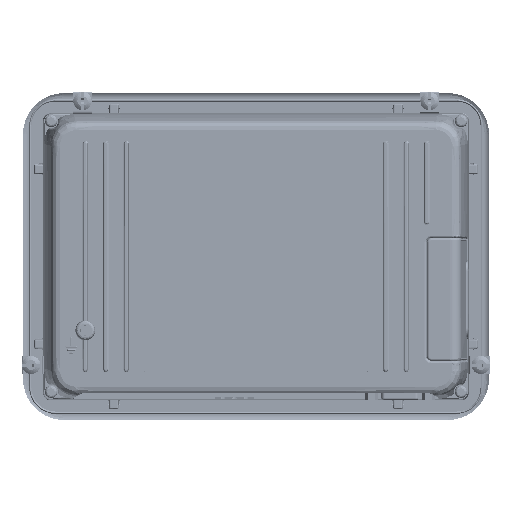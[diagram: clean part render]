
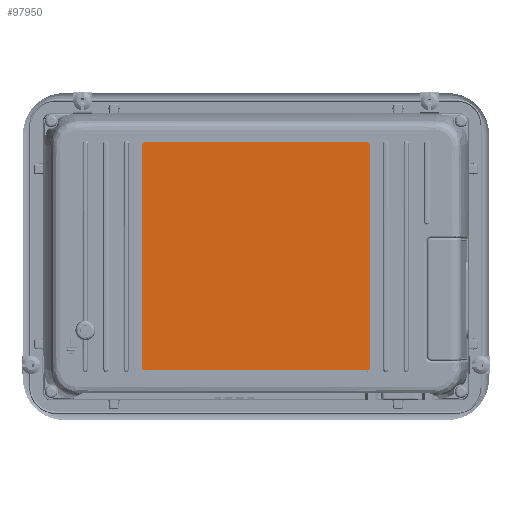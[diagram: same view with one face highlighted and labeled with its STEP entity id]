
A CAD part, top view. The second image highlights one B-rep face of the part: STEP entity #97950.
In plain terms, the highlighted planar face has unit normal (0, 0, 1).
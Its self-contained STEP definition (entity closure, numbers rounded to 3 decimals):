
#2770 = DIRECTION ( 'NONE',  ( 0., 0., -1. ) ) ;
#8351 = CIRCLE ( 'NONE', #167645, 1.5 ) ;
#9589 = VERTEX_POINT ( 'NONE', #58456 ) ;
#10124 = CARTESIAN_POINT ( 'NONE',  ( 50., 50., 0.3 ) ) ;
#11276 = EDGE_CURVE ( 'NONE', #143455, #77582, #205349, .T. ) ;
#12201 = ORIENTED_EDGE ( 'NONE', *, *, #229289, .F. ) ;
#13556 = FACE_OUTER_BOUND ( 'NONE', #259830, .T. ) ;
#14345 = CARTESIAN_POINT ( 'NONE',  ( -50., -50., 0.3 ) ) ;
#22155 = CARTESIAN_POINT ( 'NONE',  ( -48.5, 50., 0.3 ) ) ;
#23507 = CARTESIAN_POINT ( 'NONE',  ( 48.5, -50., 0.3 ) ) ;
#25077 = VERTEX_POINT ( 'NONE', #23507 ) ;
#26823 = EDGE_CURVE ( 'NONE', #165340, #25077, #231017, .T. ) ;
#28077 = DIRECTION ( 'NONE',  ( 0., 0., -1. ) ) ;
#38787 = DIRECTION ( 'NONE',  ( 0., 1., 0. ) ) ;
#54516 = CARTESIAN_POINT ( 'NONE',  ( 50., 48.5, 0.3 ) ) ;
#55281 = DIRECTION ( 'NONE',  ( 0., -1., 0. ) ) ;
#58456 = CARTESIAN_POINT ( 'NONE',  ( -50., 48.5, 0.3 ) ) ;
#61207 = ORIENTED_EDGE ( 'NONE', *, *, #107919, .F. ) ;
#61841 = CARTESIAN_POINT ( 'NONE',  ( 48.5, 48.5, 0.3 ) ) ;
#63995 = EDGE_CURVE ( 'NONE', #240107, #9589, #147153, .T. ) ;
#65649 = VERTEX_POINT ( 'NONE', #54516 ) ;
#74584 = ORIENTED_EDGE ( 'NONE', *, *, #106198, .F. ) ;
#77582 = VERTEX_POINT ( 'NONE', #176570 ) ;
#79075 = DIRECTION ( 'NONE',  ( 1., 0., 0. ) ) ;
#83025 = CARTESIAN_POINT ( 'NONE',  ( -48.5, -48.5, 0.3 ) ) ;
#84172 = ORIENTED_EDGE ( 'NONE', *, *, #11276, .F. ) ;
#89629 = DIRECTION ( 'NONE',  ( -1., 0., 0. ) ) ;
#96992 = DIRECTION ( 'NONE',  ( 1., 0., 0. ) ) ;
#97950 = ADVANCED_FACE ( 'NONE', ( #13556 ), #100387, .T. ) ;
#100387 = PLANE ( 'NONE',  #123947 ) ;
#101193 = DIRECTION ( 'NONE',  ( -1., 0., 0. ) ) ;
#101217 = VECTOR ( 'NONE', #96992, 1000. ) ;
#106198 = EDGE_CURVE ( 'NONE', #65649, #165340, #163650, .T. ) ;
#107919 = EDGE_CURVE ( 'NONE', #9589, #143455, #205996, .T. ) ;
#114957 = DIRECTION ( 'NONE',  ( -1., 0., 0. ) ) ;
#123947 = AXIS2_PLACEMENT_3D ( 'NONE', #187394, #274273, #79075 ) ;
#135272 = AXIS2_PLACEMENT_3D ( 'NONE', #61841, #148861, #235679 ) ;
#143455 = VERTEX_POINT ( 'NONE', #22155 ) ;
#146231 = CARTESIAN_POINT ( 'NONE',  ( -48.5, -50., 0.3 ) ) ;
#147153 = LINE ( 'NONE', #233978, #163503 ) ;
#148861 = DIRECTION ( 'NONE',  ( 0., 0., -1. ) ) ;
#153635 = CARTESIAN_POINT ( 'NONE',  ( -50., -48.5, 0.3 ) ) ;
#163503 = VECTOR ( 'NONE', #38787, 1000. ) ;
#163650 = LINE ( 'NONE', #250462, #243771 ) ;
#164305 = CARTESIAN_POINT ( 'NONE',  ( 50., -48.5, 0.3 ) ) ;
#165340 = VERTEX_POINT ( 'NONE', #164305 ) ;
#167645 = AXIS2_PLACEMENT_3D ( 'NONE', #83025, #169997, #256825 ) ;
#169997 = DIRECTION ( 'NONE',  ( 0., 0., -1. ) ) ;
#176570 = CARTESIAN_POINT ( 'NONE',  ( 48.5, 50., 0.3 ) ) ;
#187394 = CARTESIAN_POINT ( 'NONE',  ( 0., 0., 0.3 ) ) ;
#197971 = CARTESIAN_POINT ( 'NONE',  ( -48.5, 48.5, 0.3 ) ) ;
#205349 = LINE ( 'NONE', #10124, #101217 ) ;
#205813 = AXIS2_PLACEMENT_3D ( 'NONE', #197971, #2770, #89629 ) ;
#205979 = VECTOR ( 'NONE', #101193, 1000. ) ;
#205996 = CIRCLE ( 'NONE', #205813, 1.5 ) ;
#209551 = LINE ( 'NONE', #14345, #205979 ) ;
#210019 = VERTEX_POINT ( 'NONE', #146231 ) ;
#221350 = EDGE_CURVE ( 'NONE', #210019, #240107, #8351, .T. ) ;
#223249 = CARTESIAN_POINT ( 'NONE',  ( 48.5, -48.5, 0.3 ) ) ;
#226357 = ORIENTED_EDGE ( 'NONE', *, *, #26823, .F. ) ;
#229289 = EDGE_CURVE ( 'NONE', #25077, #210019, #209551, .T. ) ;
#231017 = CIRCLE ( 'NONE', #250092, 1.5 ) ;
#233978 = CARTESIAN_POINT ( 'NONE',  ( -50., 50., 0.3 ) ) ;
#235679 = DIRECTION ( 'NONE',  ( -1., 0., 0. ) ) ;
#236817 = ORIENTED_EDGE ( 'NONE', *, *, #263456, .F. ) ;
#240107 = VERTEX_POINT ( 'NONE', #153635 ) ;
#243771 = VECTOR ( 'NONE', #55281, 1000. ) ;
#245719 = ORIENTED_EDGE ( 'NONE', *, *, #63995, .F. ) ;
#250092 = AXIS2_PLACEMENT_3D ( 'NONE', #223249, #28077, #114957 ) ;
#250462 = CARTESIAN_POINT ( 'NONE',  ( 50., -50., 0.3 ) ) ;
#256825 = DIRECTION ( 'NONE',  ( -1., 0., 0. ) ) ;
#257140 = ORIENTED_EDGE ( 'NONE', *, *, #221350, .F. ) ;
#258046 = CIRCLE ( 'NONE', #135272, 1.5 ) ;
#259830 = EDGE_LOOP ( 'NONE', ( #84172, #61207, #245719, #257140, #12201, #226357, #74584, #236817 ) ) ;
#263456 = EDGE_CURVE ( 'NONE', #77582, #65649, #258046, .T. ) ;
#274273 = DIRECTION ( 'NONE',  ( 0., 0., 1. ) ) ;
